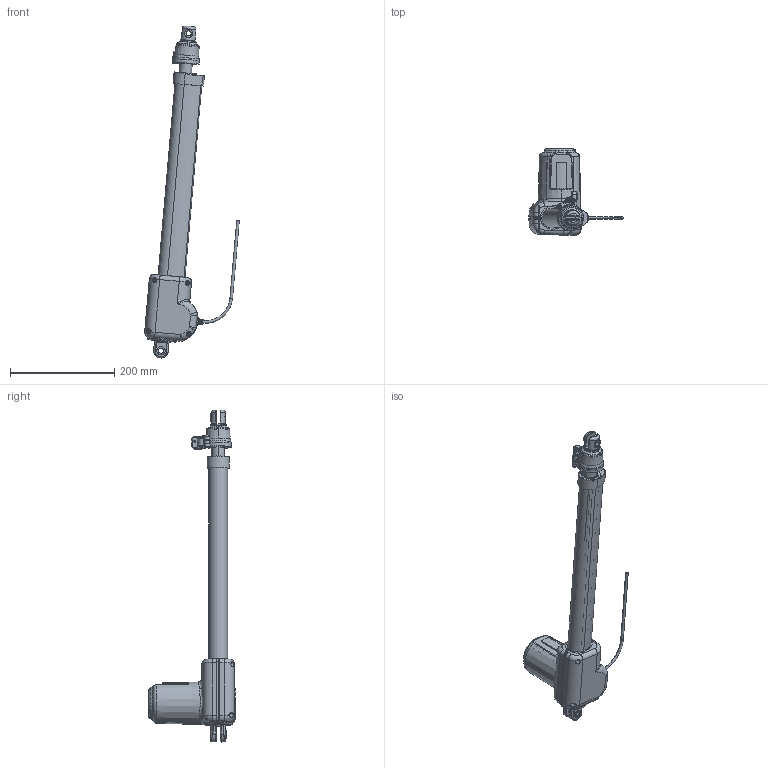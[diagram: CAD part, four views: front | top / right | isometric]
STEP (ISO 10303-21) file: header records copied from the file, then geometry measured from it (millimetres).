
FILE_DESCRIPTION((''),'2;1');
FILE_NAME('ASM0001_ASM','2024-10-07T',('USER'),(''),'PRO/ENGINEER BY PARAMETRIC TECHNOLOGY CORPORATION, 2008090','PRO/ENGINEER BY PARAMETRIC TECHNOLOGY CORPORATION, 2008090','');
FILE_SCHEMA(('CONFIG_CONTROL_DESIGN'));
Products named in the file (3): MD60-QR2_ASM; QR2_ASM; ASM0001_ASM
Assembly tree (2 placements, depth 2):
  ASM0001_ASM
    MD60-QR2_ASM
    QR2_ASM
Bounding box: 181.26 x 166.45 x 635.76 mm (x, y, z)
Surface area: 463185.3 mm2 (no closed solid volume)
Topology: 0 solids, 17 shells, 2831 faces, 8148 edges, 5333 vertices
Faces by surface type: cylinder 1105, plane 970, bspline 332, torus 293, cone 119, sphere 9, extrusion 3
Entity records: 128338 total; most frequent: CARTESIAN_POINT 55973, ORIENTED_EDGE 16268, DIRECTION 14251, EDGE_CURVE 8134, AXIS2_PLACEMENT_3D 5570, VERTEX_POINT 5329, VECTOR 3111, LINE 3108
